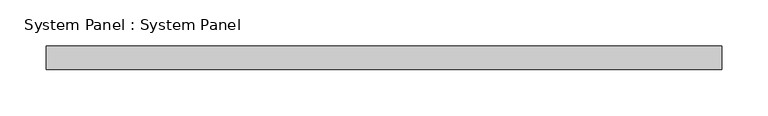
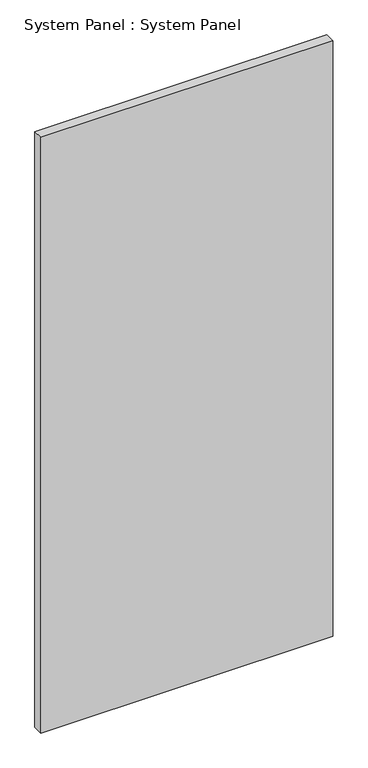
"""IFC4 building model written with IfcOpenShell, lengths in millimetres: plate geometry, System Panel : System Panel."""

from ifc_helpers import new_model, si_unit, origin, origin_with_axes, place, context, project, spatial, polyline, outline, extrude, source, transform, mapped, element, save


def system_panel_system_panel_c4eb9c82(model_context):
    return source(origin(), model_context, "Body", "SweptSolid", [
        extrude(outline(polyline([(365.125, 19.05), (-365.125, 19.05), (-365.125, 44.45), (365.125, 44.45), (365.125, 19.05)])), origin_with_axes(), (0.0, 0.0, 1.0), 1574.8),
    ])


if __name__ == "__main__":
    model = new_model("IFC4")
    model_context = context("Model", 3, world=origin())
    ifc_project = project(units=[si_unit("LENGTHUNIT", "METRE", prefix="MILLI")], contexts=[model_context])
    site = spatial("IfcSite", under=ifc_project)
    building = spatial("IfcBuilding", under=site)
    placement = place(None, origin())
    system_panel_system_panel_shape = system_panel_system_panel_c4eb9c82(model_context)
    element("IfcPlate", 1, ObjectType="System Panel : System Panel", at=placement, inside=building, context=model_context, shape_type="MappedRepresentation", body=[
        mapped(system_panel_system_panel_shape, transform((0.0, 0.0, 0.0), x_axis=(1.0, 0.0, 0.0), y_axis=(0.0, 1.0, 0.0), z_axis=(0.0, 0.0, 1.0))),
    ])
    save(model, "model.ifc")
